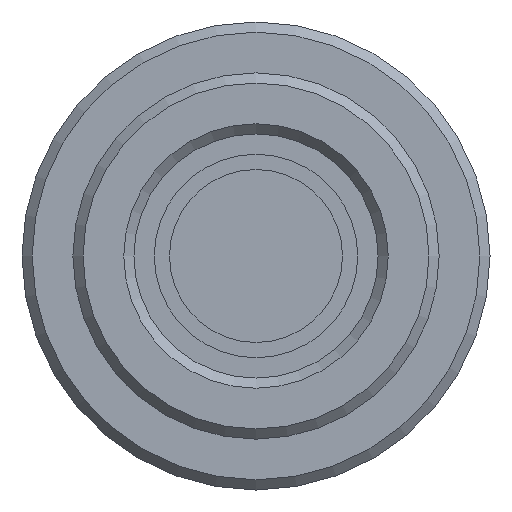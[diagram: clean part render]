
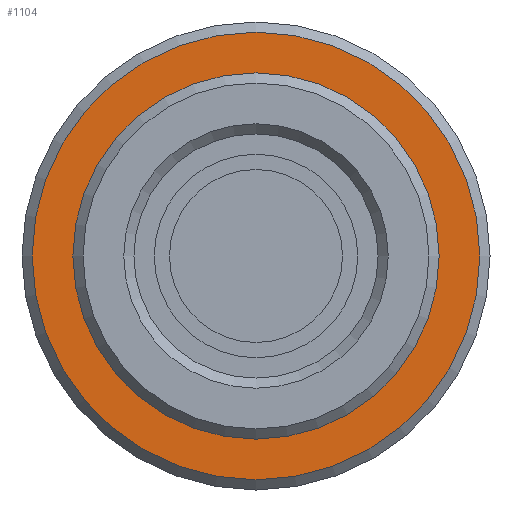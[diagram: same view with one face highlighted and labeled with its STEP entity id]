
A CAD part, front view. The second image highlights one B-rep face of the part: STEP entity #1104.
In plain terms, the highlighted planar face has unit normal (0, -1, 0).
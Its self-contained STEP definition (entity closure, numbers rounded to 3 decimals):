
#189=FACE_BOUND('',#303,.T.);
#201=PLANE('',#1226);
#231=FACE_OUTER_BOUND('',#302,.T.);
#302=EDGE_LOOP('',(#825));
#303=EDGE_LOOP('',(#826,#827));
#382=CIRCLE('',#1203,9.);
#383=CIRCLE('',#1204,9.);
#395=CIRCLE('',#1220,11.);
#478=VERTEX_POINT('',#1763);
#479=VERTEX_POINT('',#1765);
#497=VERTEX_POINT('',#1808);
#602=EDGE_CURVE('',#478,#479,#382,.T.);
#603=EDGE_CURVE('',#479,#478,#383,.T.);
#623=EDGE_CURVE('',#497,#497,#395,.T.);
#825=ORIENTED_EDGE('',*,*,#623,.F.);
#826=ORIENTED_EDGE('',*,*,#603,.F.);
#827=ORIENTED_EDGE('',*,*,#602,.F.);
#1104=ADVANCED_FACE('',(#231,#189),#201,.T.);
#1203=AXIS2_PLACEMENT_3D('',#1766,#1397,#1398);
#1204=AXIS2_PLACEMENT_3D('',#1767,#1399,#1400);
#1220=AXIS2_PLACEMENT_3D('',#1809,#1439,#1440);
#1226=AXIS2_PLACEMENT_3D('',#1821,#1453,#1454);
#1397=DIRECTION('center_axis',(0.,-1.,0.));
#1398=DIRECTION('ref_axis',(1.,0.,0.));
#1399=DIRECTION('center_axis',(0.,-1.,0.));
#1400=DIRECTION('ref_axis',(1.,0.,0.));
#1439=DIRECTION('center_axis',(0.,1.,0.));
#1440=DIRECTION('ref_axis',(-1.,0.,0.));
#1453=DIRECTION('center_axis',(0.,-1.,0.));
#1454=DIRECTION('ref_axis',(0.,0.,-1.));
#1763=CARTESIAN_POINT('',(-9.,5.,0.));
#1765=CARTESIAN_POINT('',(9.,5.,0.));
#1766=CARTESIAN_POINT('Origin',(0.,5.,0.));
#1767=CARTESIAN_POINT('Origin',(0.,5.,0.));
#1808=CARTESIAN_POINT('',(11.,5.,0.));
#1809=CARTESIAN_POINT('Origin',(0.,5.,0.));
#1821=CARTESIAN_POINT('Origin',(9.,5.,0.));
